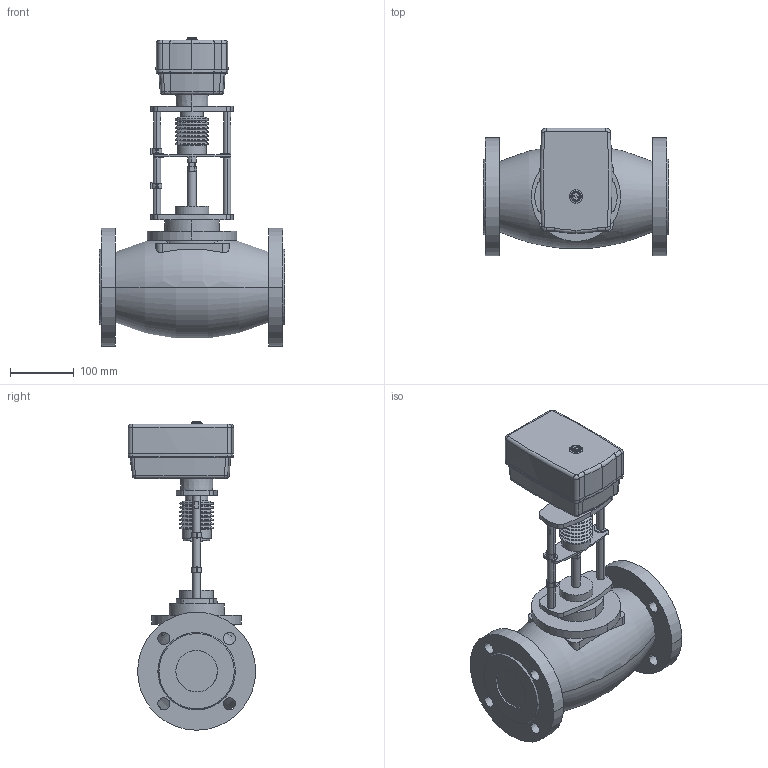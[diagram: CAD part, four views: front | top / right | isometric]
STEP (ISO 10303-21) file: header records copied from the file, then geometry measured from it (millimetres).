
FILE_DESCRIPTION (( 'STEP AP214' ), '1' );
FILE_NAME ('TRV-T-065-X-110.STEP', '2025-12-12T05:20:24', ( '' ), ( '' ), 'SwSTEP 2.0', 'SolidWorks 2023', '' );
FILE_SCHEMA (( 'AUTOMOTIVE_DESIGN' ));
Length unit declared in the file: millimetre
Products named in the file (1): TRV-T-065-X-110
Bounding box: 290 x 199.46 x 483.4 mm (x, y, z)
Volume: 7351141 mm3; surface area: 403250.4 mm2
Topology: 1 solids, 2 shells, 428 faces, 1074 edges, 677 vertices
Faces by surface type: plane 187, cylinder 126, cone 50, torus 48, bspline 13, sphere 4
Entity records: 14546 total; most frequent: CARTESIAN_POINT 4067, DIRECTION 2288, ORIENTED_EDGE 2148, EDGE_CURVE 1074, AXIS2_PLACEMENT_3D 897, VERTEX_POINT 677, LINE 494, VECTOR 494
